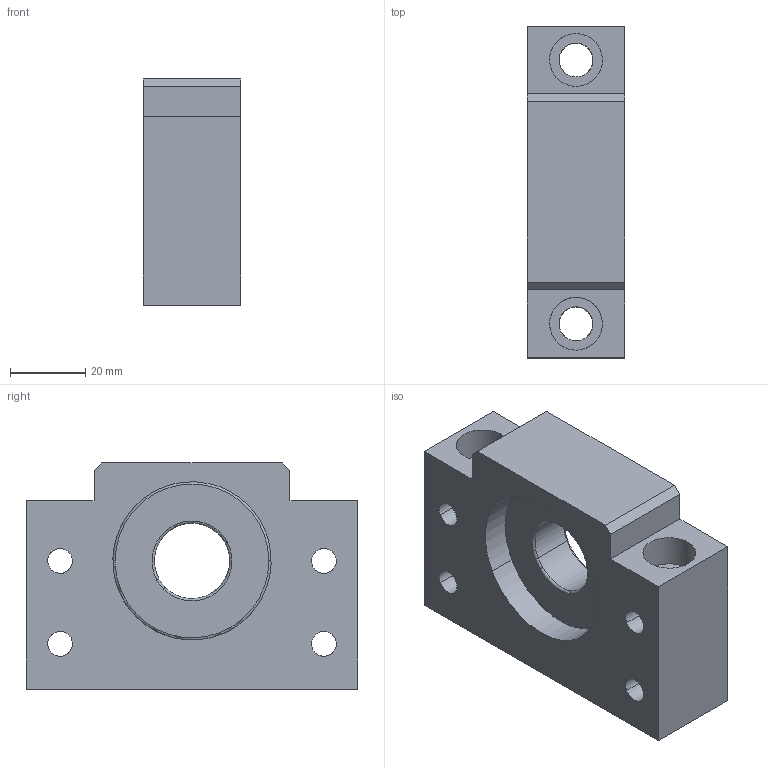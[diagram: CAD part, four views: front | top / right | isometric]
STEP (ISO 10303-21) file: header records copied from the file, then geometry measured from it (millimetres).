
FILE_DESCRIPTION(('CATIA V5 STEP Exchange'),'2;1');
FILE_NAME('D:\서포트 완성도면\BF\BF20.stp','2014-01-28T11:09:25+00:00',('none'),('none'),'CATIA Version 5 Release 18 GA (IN-10)','CATIA V5 STEP AP203','none');
FILE_SCHEMA(('CONFIG_CONTROL_DESIGN'));
Length unit declared in the file: millimetre
Products named in the file (1): BF20
Assembly tree (2 placements, depth 2):
  BF20
    #56
    #2243
Bounding box: 26 x 88 x 60 mm (x, y, z)
Volume: 94306.6 mm3; surface area: 26299 mm2
Topology: 2 solids, 2 shells, 58 faces, 172 edges, 112 vertices
Faces by surface type: cylinder 30, plane 16, torus 12
Entity records: 2869 total; most frequent: CARTESIAN_POINT 1370, ORIENTED_EDGE 344, DIRECTION 206, EDGE_CURVE 172, VERTEX_POINT 112, AXIS2_PLACEMENT_3D 86, EDGE_LOOP 76, B_SPLINE_CURVE_WITH_KNOTS 70
